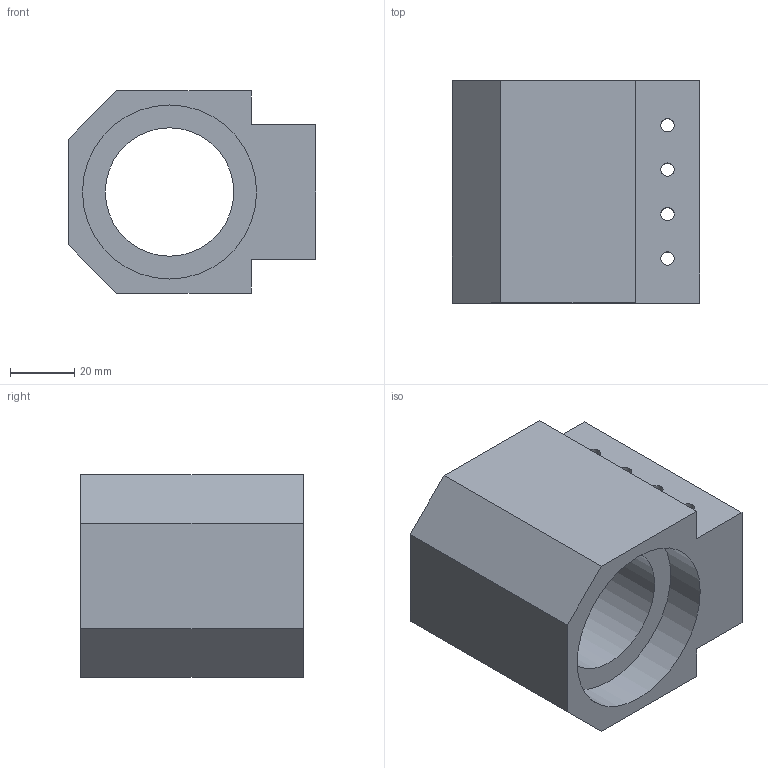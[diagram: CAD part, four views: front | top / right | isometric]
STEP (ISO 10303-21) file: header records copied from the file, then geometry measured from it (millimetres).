
FILE_DESCRIPTION(/* description */ (''),/* implementation_level */ '2;1');
FILE_NAME(/* name */ 'C:/Users/David Florian/Desktop/Cyber-Scooter-Step-Files/3-Headset.step',/* time_stamp */ '2020-12-14T22:12:38-06:00',/* author */ (''),/* organization */ (''),/* preprocessor_version */ 'ST-DEVELOPER v18.1',/* originating_system */ 'Autodesk Translation Framework v9.7.1.1290',/* authorisation */ '');
FILE_SCHEMA (('AUTOMOTIVE_DESIGN { 1 0 10303 214 3 1 1 }'));
Length unit declared in the file: millimetre
Products named in the file (1): Headset
Bounding box: 77 x 69.25 x 63 mm (x, y, z)
Volume: 174600.8 mm3; surface area: 36039.7 mm2
Topology: 1 solids, 1 shells, 21 faces, 51 edges, 34 vertices
Faces by surface type: plane 14, cylinder 7
Full cylindrical faces by diameter (mm): 4.2 x4, 40 x1, 54.2 x2
Entity records: 672 total; most frequent: DIRECTION 109, CARTESIAN_POINT 107, ORIENTED_EDGE 102, EDGE_CURVE 51, LINE 37, VECTOR 37, AXIS2_PLACEMENT_3D 36, VERTEX_POINT 34
